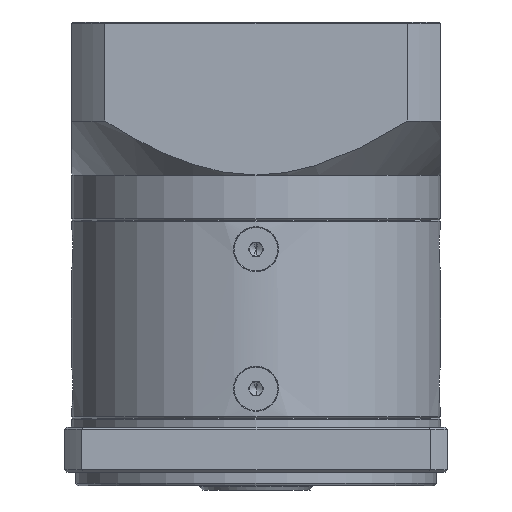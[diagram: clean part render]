
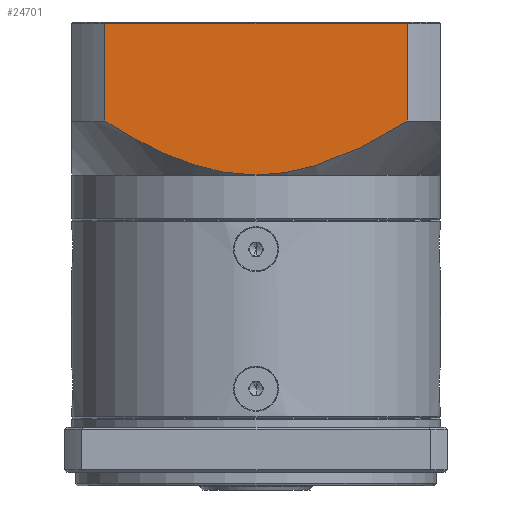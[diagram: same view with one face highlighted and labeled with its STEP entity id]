
A CAD part, front view. The second image highlights one B-rep face of the part: STEP entity #24701.
In plain terms, the highlighted planar face has unit normal (0, -1, 0).
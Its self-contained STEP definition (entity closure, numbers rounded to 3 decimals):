
#167 = CARTESIAN_POINT ( 'NONE',  ( -75.464, 8.407, -27.704 ) ) ;
#3845 = DIRECTION ( 'NONE',  ( 0., 0., 1. ) ) ;
#4284 = PLANE ( 'NONE',  #9994 ) ;
#6681 = CARTESIAN_POINT ( 'NONE',  ( -37.506, 8.407, -31.15 ) ) ;
#7838 = ORIENTED_EDGE ( 'NONE', *, *, #40604, .F. ) ;
#8368 = CARTESIAN_POINT ( 'NONE',  ( -52.332, 8.407, -33.726 ) ) ;
#9147 = VERTEX_POINT ( 'NONE', #78680 ) ;
#9209 = CARTESIAN_POINT ( 'NONE',  ( -49.287, 8.407, -33.726 ) ) ;
#9994 = AXIS2_PLACEMENT_3D ( 'NONE', #33377, #101399, #3845 ) ;
#10496 = CARTESIAN_POINT ( 'NONE',  ( -64.218, 8.407, -32.06 ) ) ;
#10604 = VECTOR ( 'NONE', #97991, 1000. ) ;
#14722 = VERTEX_POINT ( 'NONE', #105048 ) ;
#18616 = CARTESIAN_POINT ( 'NONE',  ( -68.534, 8.407, -30.646 ) ) ;
#19482 = CARTESIAN_POINT ( 'NONE',  ( -66.385, 8.407, -31.39 ) ) ;
#19894 = CARTESIAN_POINT ( 'NONE',  ( -83.365, 8.407, -23.343 ) ) ;
#22220 = ORIENTED_EDGE ( 'NONE', *, *, #27036, .F. ) ;
#22822 = ORIENTED_EDGE ( 'NONE', *, *, #33023, .F. ) ;
#24701 = ADVANCED_FACE ( 'NONE', ( #121020 ), #4284, .F. ) ;
#25214 = VECTOR ( 'NONE', #104119, 1000. ) ;
#26643 = CARTESIAN_POINT ( 'NONE',  ( -85.917, 8.407, -33.726 ) ) ;
#27036 = EDGE_CURVE ( 'NONE', #57010, #49472, #88637, .T. ) ;
#28491 = CARTESIAN_POINT ( 'NONE',  ( -72.75, 8.407, -28.996 ) ) ;
#28899 = CARTESIAN_POINT ( 'NONE',  ( -62.763, 8.407, -32.444 ) ) ;
#29740 = CARTESIAN_POINT ( 'NONE',  ( -80.772, 8.407, -24.878 ) ) ;
#33023 = EDGE_CURVE ( 'NONE', #49472, #35140, #57558, .T. ) ;
#33377 = CARTESIAN_POINT ( 'NONE',  ( -93.332, 8.407, 0.274 ) ) ;
#35140 = VERTEX_POINT ( 'NONE', #50961 ) ;
#36205 = CARTESIAN_POINT ( 'NONE',  ( -40.409, 8.407, -32.033 ) ) ;
#37368 = LINE ( 'NONE', #96192, #69515 ) ;
#39578 = CARTESIAN_POINT ( 'NONE',  ( -85.917, 8.407, -21.726 ) ) ;
#40604 = EDGE_CURVE ( 'NONE', #9147, #14722, #37368, .T. ) ;
#47712 = CARTESIAN_POINT ( 'NONE',  ( -41.873, 8.407, -32.419 ) ) ;
#47758 = ORIENTED_EDGE ( 'NONE', *, *, #61133, .F. ) ;
#48183 = LINE ( 'NONE', #26643, #25214 ) ;
#49472 = VERTEX_POINT ( 'NONE', #110986 ) ;
#50961 = CARTESIAN_POINT ( 'NONE',  ( -85.917, 8.407, -21.726 ) ) ;
#52324 = CARTESIAN_POINT ( 'NONE',  ( -18.746, 8.407, -21.726 ) ) ;
#52381 = EDGE_CURVE ( 'NONE', #35140, #9147, #48183, .T. ) ;
#52513 = DIRECTION ( 'NONE',  ( 1., 0., 0. ) ) ;
#56344 = CARTESIAN_POINT ( 'NONE',  ( -21.296, 8.407, -23.342 ) ) ;
#57010 = VERTEX_POINT ( 'NONE', #52324 ) ;
#57558 = B_SPLINE_CURVE_WITH_KNOTS ( 'NONE', 3,
 ( #69097, #87443, #97734, #28899, #10496, #19482, #117789, #18616, #97320, #28491, #167, #29740, #19894, #39578 ),
 .UNSPECIFIED., .F., .F.,
 ( 4, 2, 2, 2, 2, 2, 4 ),
 ( 0., 0.009, 0.013, 0.016, 0.018, 0.027, 0.036 ),
 .UNSPECIFIED. ) ;
#61133 = EDGE_CURVE ( 'NONE', #14722, #57010, #125332, .T. ) ;
#65331 = CARTESIAN_POINT ( 'NONE',  ( -36.086, 8.407, -30.643 ) ) ;
#66586 = CARTESIAN_POINT ( 'NONE',  ( -42.608, 8.407, -32.595 ) ) ;
#69097 = CARTESIAN_POINT ( 'NONE',  ( -52.332, 8.407, -33.726 ) ) ;
#69392 = ORIENTED_EDGE ( 'NONE', *, *, #52381, .F. ) ;
#69515 = VECTOR ( 'NONE', #52513, 1000. ) ;
#75072 = CARTESIAN_POINT ( 'NONE',  ( -39.678, 8.407, -31.823 ) ) ;
#75899 = CARTESIAN_POINT ( 'NONE',  ( -23.886, 8.407, -24.875 ) ) ;
#78680 = CARTESIAN_POINT ( 'NONE',  ( -85.917, 8.407, 0.024 ) ) ;
#78693 = CARTESIAN_POINT ( 'NONE',  ( -18.746, 8.407, 0.274 ) ) ;
#84483 = CARTESIAN_POINT ( 'NONE',  ( -18.746, 8.407, -21.726 ) ) ;
#86906 = EDGE_LOOP ( 'NONE', ( #7838, #69392, #22822, #22220, #47758 ) ) ;
#87443 = CARTESIAN_POINT ( 'NONE',  ( -55.376, 8.407, -33.726 ) ) ;
#88637 = B_SPLINE_CURVE_WITH_KNOTS ( 'NONE', 3,
 ( #84483, #56344, #75899, #114048, #123860, #65331, #6681, #75072, #36205, #47712, #66586, #115298, #9209, #8368 ),
 .UNSPECIFIED., .F., .F.,
 ( 4, 2, 2, 2, 2, 2, 4 ),
 ( 0., 0.009, 0.018, 0.022, 0.025, 0.027, 0.036 ),
 .UNSPECIFIED. ) ;
#96192 = CARTESIAN_POINT ( 'NONE',  ( -93.332, 8.407, 0.024 ) ) ;
#97320 = CARTESIAN_POINT ( 'NONE',  ( -69.241, 8.407, -30.38 ) ) ;
#97734 = CARTESIAN_POINT ( 'NONE',  ( -58.36, 8.407, -33.384 ) ) ;
#97991 = DIRECTION ( 'NONE',  ( 0., 0., -1. ) ) ;
#101399 = DIRECTION ( 'NONE',  ( 0., 1., 0. ) ) ;
#104119 = DIRECTION ( 'NONE',  ( 0., 0., 1. ) ) ;
#105048 = CARTESIAN_POINT ( 'NONE',  ( -18.746, 8.407, 0.024 ) ) ;
#110986 = CARTESIAN_POINT ( 'NONE',  ( -52.332, 8.407, -33.726 ) ) ;
#114048 = CARTESIAN_POINT ( 'NONE',  ( -29.184, 8.407, -27.696 ) ) ;
#115298 = CARTESIAN_POINT ( 'NONE',  ( -46.294, 8.407, -33.384 ) ) ;
#117789 = CARTESIAN_POINT ( 'NONE',  ( -67.106, 8.407, -31.15 ) ) ;
#121020 = FACE_OUTER_BOUND ( 'NONE', #86906, .T. ) ;
#123860 = CARTESIAN_POINT ( 'NONE',  ( -31.891, 8.407, -28.985 ) ) ;
#125332 = LINE ( 'NONE', #78693, #10604 ) ;
